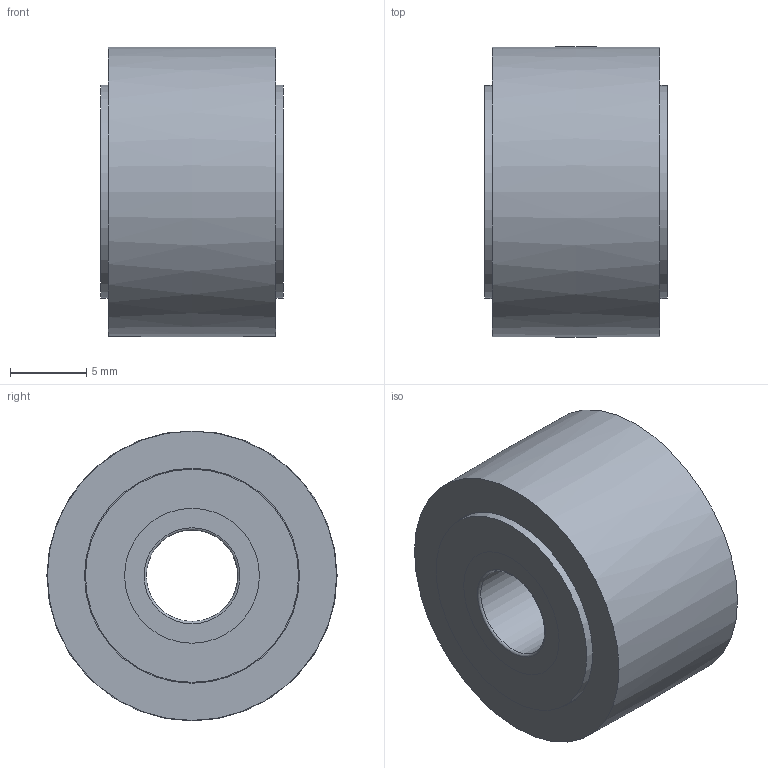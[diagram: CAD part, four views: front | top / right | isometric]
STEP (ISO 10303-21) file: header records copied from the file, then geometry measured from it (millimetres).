
FILE_DESCRIPTION(/* description */ (''),/* implementation_level */ '2;1');
FILE_NAME(/* name */ 'C:\Users\OUREHANEKD\NATV\NATV--\NATV6.stp',/* time_stamp */ '2018-06-05T13:10:53+02:00',/* author */ ('OUREHANEKD'),/* organization */ (''),/* preprocessor_version */ 'ST-DEVELOPER v16.13',/* originating_system */ 'Autodesk Inventor 2018',/* authorisation */ '');
FILE_SCHEMA (('AUTOMOTIVE_DESIGN { 1 0 10303 214 3 1 1 }'));
Length unit declared in the file: millimetre
Products named in the file (5): NATV6; NATV6-01; NATV6-needle; NATV6-shield; NATV6-02
Assembly tree (43 placements, depth 2):
  NATV6
    NATV6-01
    NATV6-needle  x40
    NATV6-shield
    NATV6-02
Bounding box: 12 x 19.06 x 19.03 mm (x, y, z)
Volume: 2854.8 mm3; surface area: 3631.8 mm2
Topology: 44 solids, 44 shells, 147 faces, 165 edges, 110 vertices
Faces by surface type: plane 92, cylinder 52, torus 2, bspline 1
Full cylindrical faces by diameter (mm): 0.792 x40, 0.99 x1, 6 x1, 8.86 x4, 9.96 x1, 11.544 x1, 14 x2, 14.12 x2
Entity records: 1220 total; most frequent: CARTESIAN_POINT 237, DIRECTION 214, AXIS2_PLACEMENT_3D 107, ORIENTED_EDGE 66, EDGE_LOOP 59, PRODUCT_DEFINITION_SHAPE 48, ITEM_DEFINED_TRANSFORMATION 43, CONTEXT_DEPENDENT_SHAPE_REPRESENTATION 43
